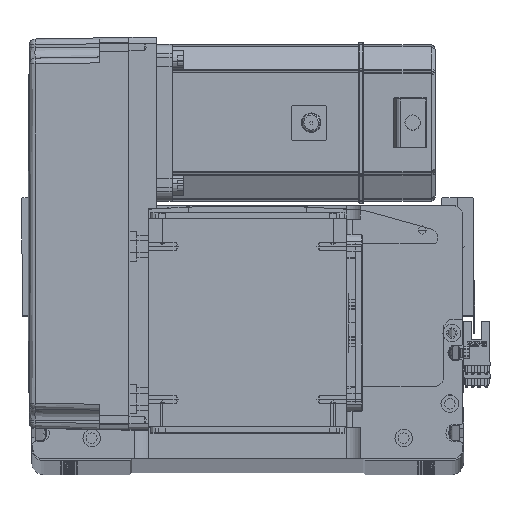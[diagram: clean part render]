
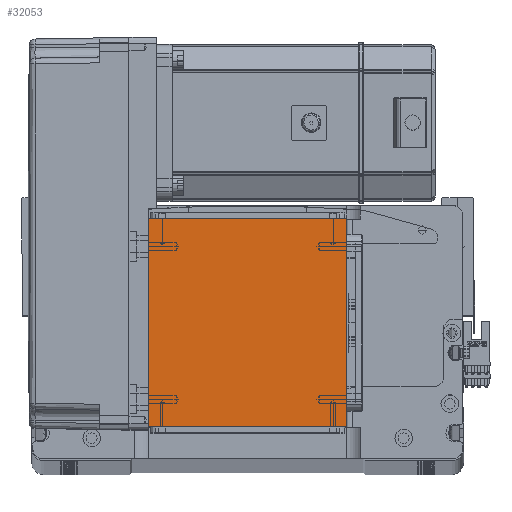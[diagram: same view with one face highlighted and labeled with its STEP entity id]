
A CAD part, top view. The second image highlights one B-rep face of the part: STEP entity #32053.
In plain terms, the highlighted planar face has unit normal (0, 0, 1).
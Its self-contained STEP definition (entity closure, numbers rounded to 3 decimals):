
#1023 = LINE ( 'NONE', #31841, #6976 ) ;
#1330 = CARTESIAN_POINT ( 'NONE',  ( -50.5, 122., 115. ) ) ;
#2233 = CARTESIAN_POINT ( 'NONE',  ( -50.5, 16., 115. ) ) ;
#5221 = FACE_OUTER_BOUND ( 'NONE', #37961, .T. ) ;
#6022 = VERTEX_POINT ( 'NONE', #48407 ) ;
#6976 = VECTOR ( 'NONE', #50937, 1000. ) ;
#7322 = VERTEX_POINT ( 'NONE', #40937 ) ;
#8379 = VECTOR ( 'NONE', #16917, 1000. ) ;
#9017 = DIRECTION ( 'NONE',  ( -1., 0., 0. ) ) ;
#9249 = ORIENTED_EDGE ( 'NONE', *, *, #30411, .T. ) ;
#10332 = VERTEX_POINT ( 'NONE', #1330 ) ;
#13256 = CARTESIAN_POINT ( 'NONE',  ( -50.5, 122., 115. ) ) ;
#15913 = EDGE_CURVE ( 'NONE', #6022, #46368, #1023, .T. ) ;
#16917 = DIRECTION ( 'NONE',  ( 1., 0., 0. ) ) ;
#20960 = AXIS2_PLACEMENT_3D ( 'NONE', #59801, #26240, #30694 ) ;
#21197 = PLANE ( 'NONE',  #20960 ) ;
#25957 = DIRECTION ( 'NONE',  ( 0., -1., 0. ) ) ;
#26240 = DIRECTION ( 'NONE',  ( 0., 0., 1. ) ) ;
#30411 = EDGE_CURVE ( 'NONE', #7322, #6022, #36984, .T. ) ;
#30694 = DIRECTION ( 'NONE',  ( 1., 0., 0. ) ) ;
#31841 = CARTESIAN_POINT ( 'NONE',  ( 50.5, 122., 115. ) ) ;
#32053 = ADVANCED_FACE ( 'NONE', ( #5221 ), #21197, .T. ) ;
#36984 = LINE ( 'NONE', #2233, #8379 ) ;
#37961 = EDGE_LOOP ( 'NONE', ( #53041, #9249, #51458, #46930 ) ) ;
#40937 = CARTESIAN_POINT ( 'NONE',  ( -50.5, 16., 115. ) ) ;
#44051 = VECTOR ( 'NONE', #9017, 1000. ) ;
#44184 = CARTESIAN_POINT ( 'NONE',  ( 50.5, 122., 115. ) ) ;
#45471 = CARTESIAN_POINT ( 'NONE',  ( -50.5, 122., 115. ) ) ;
#46368 = VERTEX_POINT ( 'NONE', #44184 ) ;
#46694 = EDGE_CURVE ( 'NONE', #46368, #10332, #50045, .T. ) ;
#46930 = ORIENTED_EDGE ( 'NONE', *, *, #46694, .T. ) ;
#47593 = LINE ( 'NONE', #45471, #61067 ) ;
#48103 = EDGE_CURVE ( 'NONE', #10332, #7322, #47593, .T. ) ;
#48407 = CARTESIAN_POINT ( 'NONE',  ( 50.5, 16., 115. ) ) ;
#50045 = LINE ( 'NONE', #13256, #44051 ) ;
#50937 = DIRECTION ( 'NONE',  ( 0., 1., 0. ) ) ;
#51458 = ORIENTED_EDGE ( 'NONE', *, *, #15913, .T. ) ;
#53041 = ORIENTED_EDGE ( 'NONE', *, *, #48103, .T. ) ;
#59801 = CARTESIAN_POINT ( 'NONE',  ( 0., 0., 115. ) ) ;
#61067 = VECTOR ( 'NONE', #25957, 1000. ) ;
